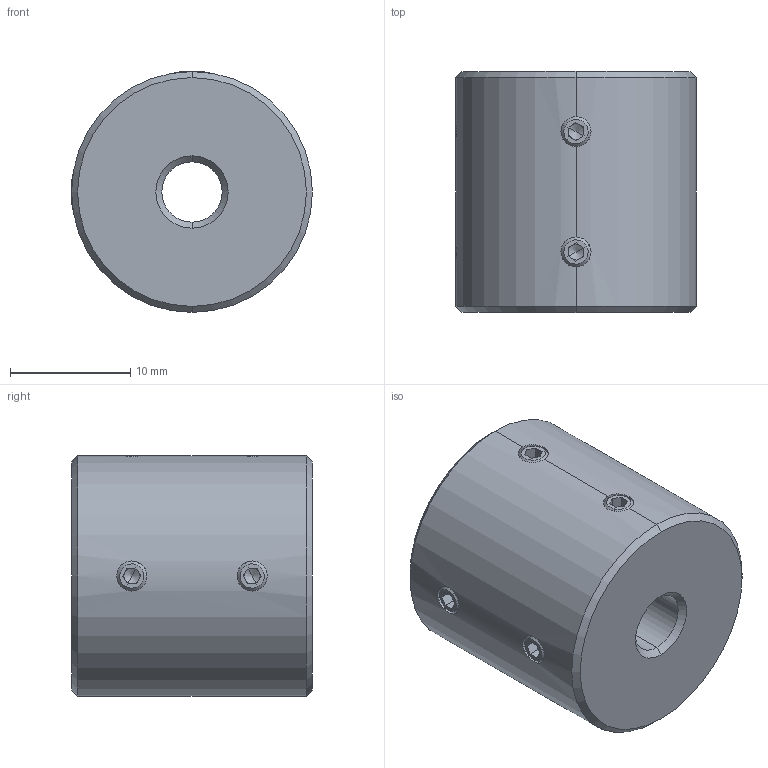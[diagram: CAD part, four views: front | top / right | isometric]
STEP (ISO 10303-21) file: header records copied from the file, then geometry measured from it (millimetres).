
FILE_DESCRIPTION (( 'STEP AP214' ), '1' );
FILE_NAME ('LL-D-D20L20-5-5.STEP', '2022-07-23T06:29:33', ( '' ), ( '' ), 'SwSTEP 2.0', 'SolidWorks 2022', '' );
FILE_SCHEMA (( 'AUTOMOTIVE_DESIGN' ));
Length unit declared in the file: millimetre
Products named in the file (1): LL-D-D20L20-5-5
Bounding box: 20 x 20 x 20 mm (x, y, z)
Volume: 5789 mm3; surface area: 2280.9 mm2
Topology: 1 solids, 1 shells, 110 faces, 280 edges, 172 vertices
Faces by surface type: plane 58, cone 32, cylinder 20
Entity records: 3574 total; most frequent: CARTESIAN_POINT 891, DIRECTION 566, ORIENTED_EDGE 544, EDGE_CURVE 272, AXIS2_PLACEMENT_3D 207, VERTEX_POINT 172, LINE 152, VECTOR 152
